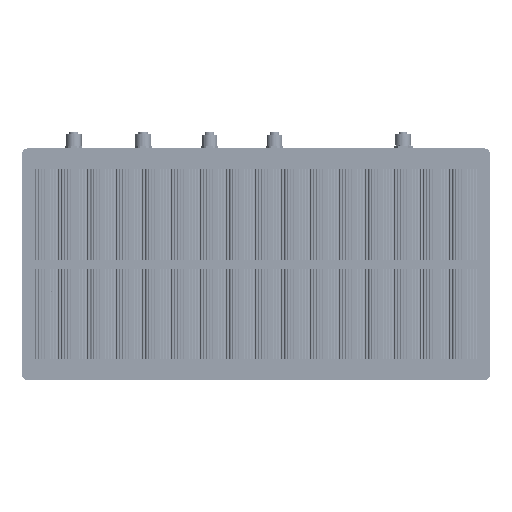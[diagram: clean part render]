
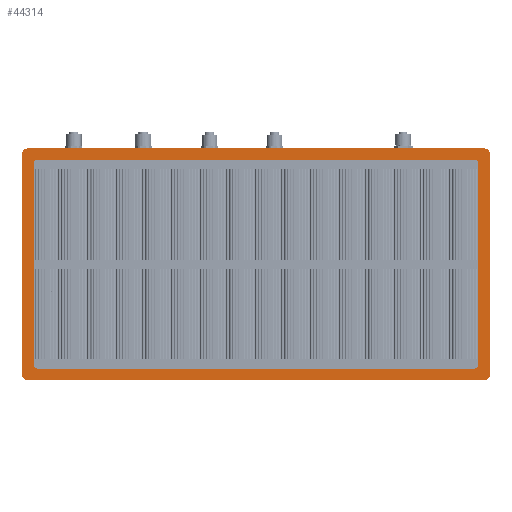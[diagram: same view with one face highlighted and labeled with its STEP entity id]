
A CAD part, top view. The second image highlights one B-rep face of the part: STEP entity #44314.
In plain terms, the highlighted planar face has unit normal (0, 0, 1) as drawn and (0, 1, 0) by its records, which use the part's own axes.
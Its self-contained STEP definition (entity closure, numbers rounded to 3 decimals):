
#3670 = VECTOR ( 'NONE', #257455, 1000. ) ;
#6528 = DIRECTION ( 'NONE',  ( -1., 0., 0. ) ) ;
#6742 = EDGE_CURVE ( 'NONE', #56198, #69909, #98607, .T. ) ;
#8683 = AXIS2_PLACEMENT_3D ( 'NONE', #178571, #233809, #294638 ) ;
#9555 = AXIS2_PLACEMENT_3D ( 'NONE', #355408, #264173, #184164 ) ;
#12219 = VERTEX_POINT ( 'NONE', #58202 ) ;
#16558 = CIRCLE ( 'NONE', #240603, 5. ) ;
#16672 = CARTESIAN_POINT ( 'NONE',  ( -192., 8., 0. ) ) ;
#19907 = EDGE_CURVE ( 'NONE', #324501, #289715, #49512, .T. ) ;
#20734 = ORIENTED_EDGE ( 'NONE', *, *, #176769, .T. ) ;
#24516 = ORIENTED_EDGE ( 'NONE', *, *, #72891, .T. ) ;
#29474 = CARTESIAN_POINT ( 'NONE',  ( 197., 8., -10. ) ) ;
#32810 = EDGE_CURVE ( 'NONE', #80246, #69909, #366092, .T. ) ;
#34195 = DIRECTION ( 'NONE',  ( 0., 1., 0. ) ) ;
#36671 = CARTESIAN_POINT ( 'NONE',  ( 202., 8., -10. ) ) ;
#36688 = DIRECTION ( 'NONE',  ( 0., 1., 0. ) ) ;
#41734 = CARTESIAN_POINT ( 'NONE',  ( 197., 8., -5. ) ) ;
#44314 = ADVANCED_FACE ( 'NONE', ( #154604, #93765 ), #215519, .T. ) ;
#46423 = CIRCLE ( 'NONE', #356302, 5. ) ;
#47113 = LINE ( 'NONE', #16672, #186913 ) ;
#49512 = CIRCLE ( 'NONE', #140733, 3. ) ;
#52071 = EDGE_CURVE ( 'NONE', #80246, #52582, #105966, .T. ) ;
#52582 = VERTEX_POINT ( 'NONE', #219853 ) ;
#53544 = CIRCLE ( 'NONE', #77988, 5. ) ;
#54239 = ORIENTED_EDGE ( 'NONE', *, *, #160718, .F. ) ;
#55360 = AXIS2_PLACEMENT_3D ( 'NONE', #181294, #36688, #99422 ) ;
#56198 = VERTEX_POINT ( 'NONE', #233715 ) ;
#58202 = CARTESIAN_POINT ( 'NONE',  ( 197., 8., 190. ) ) ;
#62592 = EDGE_CURVE ( 'NONE', #198681, #332184, #237498, .T. ) ;
#64631 = EDGE_CURVE ( 'NONE', #332184, #12219, #109073, .T. ) ;
#68062 = ORIENTED_EDGE ( 'NONE', *, *, #162098, .F. ) ;
#69909 = VERTEX_POINT ( 'NONE', #110107 ) ;
#70478 = ORIENTED_EDGE ( 'NONE', *, *, #166111, .T. ) ;
#72078 = VERTEX_POINT ( 'NONE', #111647 ) ;
#72891 = EDGE_CURVE ( 'NONE', #359081, #358794, #266969, .T. ) ;
#75104 = ORIENTED_EDGE ( 'NONE', *, *, #364602, .T. ) ;
#75237 = VECTOR ( 'NONE', #6528, 1000. ) ;
#75987 = DIRECTION ( 'NONE',  ( 0., 1., 0. ) ) ;
#77841 = CARTESIAN_POINT ( 'NONE',  ( 197., 8., 185. ) ) ;
#77988 = AXIS2_PLACEMENT_3D ( 'NONE', #77841, #75987, #108263 ) ;
#79800 = VECTOR ( 'NONE', #183472, 1000. ) ;
#80246 = VERTEX_POINT ( 'NONE', #298653 ) ;
#93498 = ORIENTED_EDGE ( 'NONE', *, *, #374323, .F. ) ;
#93765 = FACE_OUTER_BOUND ( 'NONE', #287609, .T. ) ;
#98607 = CIRCLE ( 'NONE', #311312, 3. ) ;
#99422 = DIRECTION ( 'NONE',  ( 0., 0., 1. ) ) ;
#105416 = CARTESIAN_POINT ( 'NONE',  ( -192., 8., 180. ) ) ;
#105895 = CARTESIAN_POINT ( 'NONE',  ( -197., 8., -5. ) ) ;
#105966 = CIRCLE ( 'NONE', #8683, 3. ) ;
#106837 = CIRCLE ( 'NONE', #9555, 3. ) ;
#107687 = VERTEX_POINT ( 'NONE', #352374 ) ;
#108263 = DIRECTION ( 'NONE',  ( 0., 0., 1. ) ) ;
#109073 = LINE ( 'NONE', #225176, #3670 ) ;
#110107 = CARTESIAN_POINT ( 'NONE',  ( 189., 8., 180. ) ) ;
#111647 = CARTESIAN_POINT ( 'NONE',  ( 192., 8., 3. ) ) ;
#126563 = ORIENTED_EDGE ( 'NONE', *, *, #32810, .F. ) ;
#133986 = CARTESIAN_POINT ( 'NONE',  ( 189., 8., 177. ) ) ;
#140733 = AXIS2_PLACEMENT_3D ( 'NONE', #348920, #316671, #352663 ) ;
#154604 = FACE_BOUND ( 'NONE', #209184, .T. ) ;
#156764 = LINE ( 'NONE', #240560, #75237 ) ;
#160718 = EDGE_CURVE ( 'NONE', #324501, #52582, #329517, .T. ) ;
#161381 = VECTOR ( 'NONE', #289308, 1000. ) ;
#162098 = EDGE_CURVE ( 'NONE', #56198, #72078, #281870, .T. ) ;
#162332 = ORIENTED_EDGE ( 'NONE', *, *, #62592, .T. ) ;
#166111 = EDGE_CURVE ( 'NONE', #12219, #359081, #53544, .T. ) ;
#169871 = CARTESIAN_POINT ( 'NONE',  ( -192., 8., 3. ) ) ;
#176769 = EDGE_CURVE ( 'NONE', #358439, #245603, #16558, .T. ) ;
#177227 = EDGE_CURVE ( 'NONE', #358794, #212364, #46423, .T. ) ;
#178571 = CARTESIAN_POINT ( 'NONE',  ( -189., 8., 177. ) ) ;
#181294 = CARTESIAN_POINT ( 'NONE',  ( 0., 8., 180. ) ) ;
#182239 = ORIENTED_EDGE ( 'NONE', *, *, #64631, .T. ) ;
#183472 = DIRECTION ( 'NONE',  ( 0., 0., 1. ) ) ;
#184164 = DIRECTION ( 'NONE',  ( 0., 0., 1. ) ) ;
#185364 = LINE ( 'NONE', #187250, #79800 ) ;
#186518 = CARTESIAN_POINT ( 'NONE',  ( -197., 8., -10. ) ) ;
#186913 = VECTOR ( 'NONE', #224031, 1000. ) ;
#187250 = CARTESIAN_POINT ( 'NONE',  ( -202., 8., -10. ) ) ;
#193574 = VECTOR ( 'NONE', #221506, 1000. ) ;
#198078 = VECTOR ( 'NONE', #274335, 1000. ) ;
#198681 = VERTEX_POINT ( 'NONE', #303161 ) ;
#209184 = EDGE_LOOP ( 'NONE', ( #93498, #75104, #68062, #258899, #126563, #336213, #54239, #324781 ) ) ;
#209837 = DIRECTION ( 'NONE',  ( 0., 0., -1. ) ) ;
#212364 = VERTEX_POINT ( 'NONE', #29474 ) ;
#215519 = PLANE ( 'NONE',  #55360 ) ;
#218793 = VECTOR ( 'NONE', #209837, 1000. ) ;
#219853 = CARTESIAN_POINT ( 'NONE',  ( -192., 8., 177. ) ) ;
#221506 = DIRECTION ( 'NONE',  ( 1., 0., 0. ) ) ;
#224031 = DIRECTION ( 'NONE',  ( -1., 0., 0. ) ) ;
#225176 = CARTESIAN_POINT ( 'NONE',  ( -202., 8., 190. ) ) ;
#233715 = CARTESIAN_POINT ( 'NONE',  ( 192., 8., 177. ) ) ;
#233809 = DIRECTION ( 'NONE',  ( 0., -1., 0. ) ) ;
#237498 = CIRCLE ( 'NONE', #243504, 5. ) ;
#240560 = CARTESIAN_POINT ( 'NONE',  ( -202., 8., -10. ) ) ;
#240603 = AXIS2_PLACEMENT_3D ( 'NONE', #105895, #277189, #338026 ) ;
#241890 = EDGE_CURVE ( 'NONE', #245603, #198681, #185364, .T. ) ;
#243504 = AXIS2_PLACEMENT_3D ( 'NONE', #332680, #273748, #302267 ) ;
#245603 = VERTEX_POINT ( 'NONE', #258751 ) ;
#250077 = DIRECTION ( 'NONE',  ( 0., -1., 0. ) ) ;
#257455 = DIRECTION ( 'NONE',  ( 1., 0., 0. ) ) ;
#258751 = CARTESIAN_POINT ( 'NONE',  ( -202., 8., -5. ) ) ;
#258899 = ORIENTED_EDGE ( 'NONE', *, *, #6742, .T. ) ;
#264173 = DIRECTION ( 'NONE',  ( 0., -1., 0. ) ) ;
#266969 = LINE ( 'NONE', #36671, #218793 ) ;
#273227 = EDGE_CURVE ( 'NONE', #212364, #358439, #156764, .T. ) ;
#273748 = DIRECTION ( 'NONE',  ( 0., 1., 0. ) ) ;
#274335 = DIRECTION ( 'NONE',  ( 0., 0., 1. ) ) ;
#277189 = DIRECTION ( 'NONE',  ( 0., 1., 0. ) ) ;
#281870 = LINE ( 'NONE', #316031, #161381 ) ;
#281911 = ORIENTED_EDGE ( 'NONE', *, *, #241890, .T. ) ;
#287609 = EDGE_LOOP ( 'NONE', ( #325752, #20734, #281911, #162332, #182239, #70478, #24516, #288330 ) ) ;
#288330 = ORIENTED_EDGE ( 'NONE', *, *, #177227, .T. ) ;
#289308 = DIRECTION ( 'NONE',  ( 0., 0., -1. ) ) ;
#289715 = VERTEX_POINT ( 'NONE', #348999 ) ;
#294638 = DIRECTION ( 'NONE',  ( 0., 0., 1. ) ) ;
#294883 = DIRECTION ( 'NONE',  ( 0., 0., 1. ) ) ;
#298653 = CARTESIAN_POINT ( 'NONE',  ( -189., 8., 180. ) ) ;
#302267 = DIRECTION ( 'NONE',  ( 0., 0., 1. ) ) ;
#303161 = CARTESIAN_POINT ( 'NONE',  ( -202., 8., 185. ) ) ;
#311040 = CARTESIAN_POINT ( 'NONE',  ( 202., 8., -5. ) ) ;
#311312 = AXIS2_PLACEMENT_3D ( 'NONE', #133986, #250077, #366103 ) ;
#316031 = CARTESIAN_POINT ( 'NONE',  ( 192., 8., 180. ) ) ;
#316671 = DIRECTION ( 'NONE',  ( 0., -1., 0. ) ) ;
#324501 = VERTEX_POINT ( 'NONE', #169871 ) ;
#324781 = ORIENTED_EDGE ( 'NONE', *, *, #19907, .T. ) ;
#325752 = ORIENTED_EDGE ( 'NONE', *, *, #273227, .T. ) ;
#329517 = LINE ( 'NONE', #337024, #198078 ) ;
#329784 = CARTESIAN_POINT ( 'NONE',  ( -197., 8., 190. ) ) ;
#332184 = VERTEX_POINT ( 'NONE', #329784 ) ;
#332680 = CARTESIAN_POINT ( 'NONE',  ( -197., 8., 185. ) ) ;
#336213 = ORIENTED_EDGE ( 'NONE', *, *, #52071, .T. ) ;
#336341 = CARTESIAN_POINT ( 'NONE',  ( 202., 8., 185. ) ) ;
#337024 = CARTESIAN_POINT ( 'NONE',  ( -192., 8., 0. ) ) ;
#338026 = DIRECTION ( 'NONE',  ( 0., 0., 1. ) ) ;
#348920 = CARTESIAN_POINT ( 'NONE',  ( -189., 8., 3. ) ) ;
#348999 = CARTESIAN_POINT ( 'NONE',  ( -189., 8., 0. ) ) ;
#352374 = CARTESIAN_POINT ( 'NONE',  ( 189., 8., 0. ) ) ;
#352663 = DIRECTION ( 'NONE',  ( 0., 0., 1. ) ) ;
#355408 = CARTESIAN_POINT ( 'NONE',  ( 189., 8., 3. ) ) ;
#356302 = AXIS2_PLACEMENT_3D ( 'NONE', #41734, #34195, #294883 ) ;
#358439 = VERTEX_POINT ( 'NONE', #186518 ) ;
#358794 = VERTEX_POINT ( 'NONE', #311040 ) ;
#359081 = VERTEX_POINT ( 'NONE', #336341 ) ;
#364602 = EDGE_CURVE ( 'NONE', #107687, #72078, #106837, .T. ) ;
#366092 = LINE ( 'NONE', #105416, #193574 ) ;
#366103 = DIRECTION ( 'NONE',  ( 0., 0., 1. ) ) ;
#374323 = EDGE_CURVE ( 'NONE', #107687, #289715, #47113, .T. ) ;
